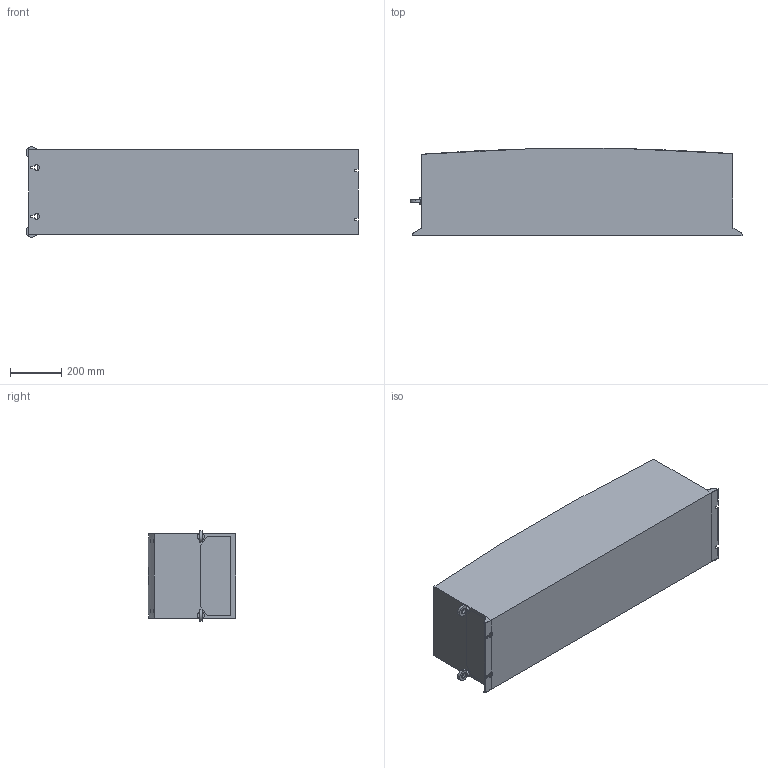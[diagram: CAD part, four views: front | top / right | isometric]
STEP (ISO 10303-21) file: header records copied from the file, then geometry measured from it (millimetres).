
FILE_DESCRIPTION (( 'STEP AP214' ), '1' );
FILE_NAME ('ECO S7 IP55.STEP', '2017-08-15T14:16:21', ( '' ), ( '' ), 'SwSTEP 2.0', 'SolidWorks 2017', '' );
FILE_SCHEMA (( 'AUTOMOTIVE_DESIGN' ));
Length unit declared in the file: millimetre
Products named in the file (1): ECO S7 IP55
Bounding box: 1290 x 339.25 x 351.8 mm (x, y, z)
Volume: 132523660.9 mm3; surface area: 1870442.2 mm2
Topology: 1 solids, 1 shells, 294 faces, 757 edges, 502 vertices
Faces by surface type: cylinder 100, bspline 99, plane 95
Entity records: 14479 total; most frequent: CARTESIAN_POINT 8217, ORIENTED_EDGE 1514, DIRECTION 883, EDGE_CURVE 757, VERTEX_POINT 502, EDGE_LOOP 339, LINE 335, VECTOR 335
